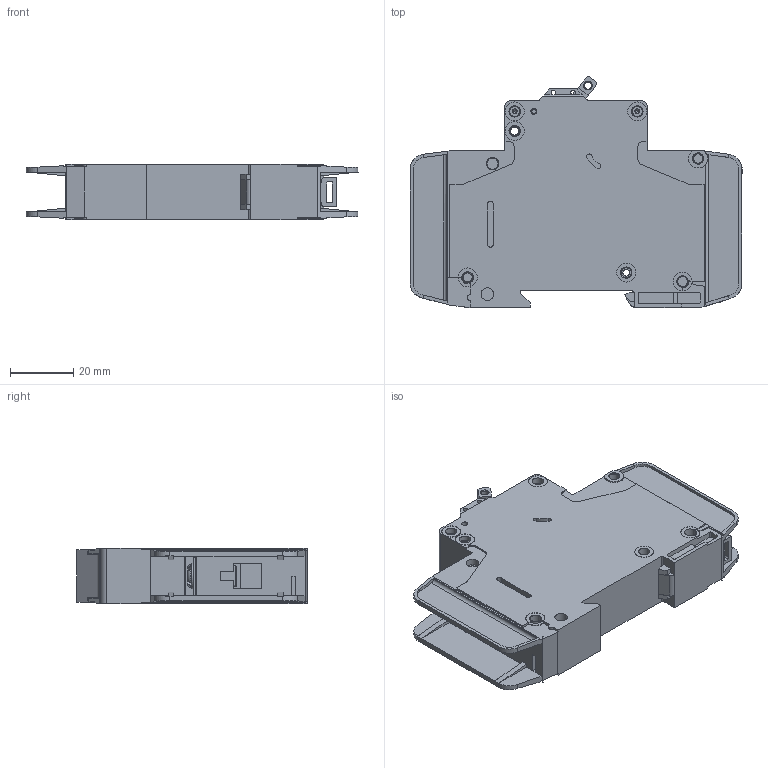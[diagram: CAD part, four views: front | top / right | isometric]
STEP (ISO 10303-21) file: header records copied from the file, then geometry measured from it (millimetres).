
FILE_DESCRIPTION(/* description */ ('STEP AP242','CAx-IF Rec.Pracs.---Representation and Presentation of Product Manufacturing Information (PMI)---4.0---2014-10-13','CAx-IF Rec.Pracs.---3D Tessellated Geometry---0.4---2014-09-14','2;1'),/* implementation_level */ '2;1');
FILE_NAME(/* name */ 'FAZ-D16-1-NA-SP',/* time_stamp */ '2026-10-04T22:19:19+02:00',/* author */ ('License CC BY-ND 4.0'),/* organization */ ('CADENAS'),/* preprocessor_version */ 'ST-DEVELOPER v20',/* originating_system */ 'PARTsolutions',/* authorisation */ ' ');
FILE_SCHEMA (('AP242_MANAGED_MODEL_BASED_3D_ENGINEERING_MIM_LF { 1 0 10303 442 1 1 4 }'));
Length unit declared in the file: millimetre
Products named in the file (4): FAZ-D16-1-NA-SP; FAZ-D16-1-NA-SP_PART1; FAZ-D16-1-NA-SP_PART2; FAZ-D16-1-NA-SP_PART3
Assembly tree (3 placements, depth 2):
  FAZ-D16-1-NA-SP
    FAZ-D16-1-NA-SP_PART1
    FAZ-D16-1-NA-SP_PART2
    FAZ-D16-1-NA-SP_PART3
Bounding box: 105 x 73.04 x 17.7 mm (x, y, z)
Volume: 77694.9 mm3; surface area: 24739.6 mm2
Topology: 3 solids, 5 shells, 681 faces, 1780 edges, 1158 vertices
Faces by surface type: plane 409, cylinder 196, torus 47, bspline 18, cone 7, sphere 4
Full cylindrical faces by diameter (mm): 1.09 x2, 1.5 x4, 1.9 x2, 2.15 x1, 2.2 x1, 2.5 x1, 2.55 x1, 3.3 x2, 3.4 x2, 3.6 x14, 4 x4, 6 x8, 7.147 x2, 8.2 x4
Entity records: 20616 total; most frequent: CARTESIAN_POINT 3970, DIRECTION 3407, ORIENTED_EDGE 3376, EDGE_CURVE 1688, VERTEX_POINT 1147, AXIS2_PLACEMENT_3D 1138, LINE 1131, VECTOR 1131
